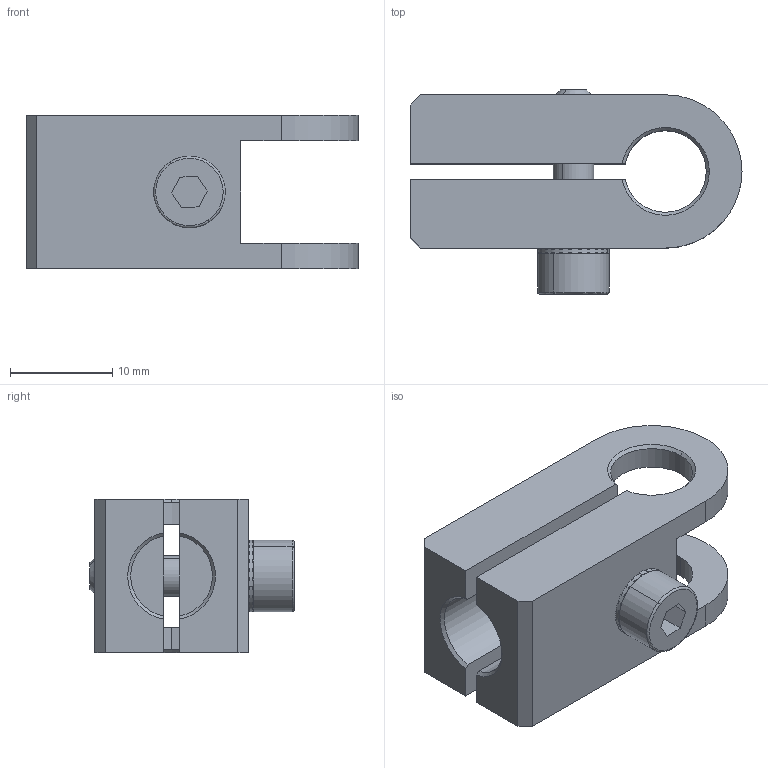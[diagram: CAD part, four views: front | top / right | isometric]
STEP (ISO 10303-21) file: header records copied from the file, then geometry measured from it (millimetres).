
FILE_DESCRIPTION (( 'STEP AP214' ), '1' );
FILE_NAME ('SMBR7-0808.STEP', '2019-11-07T02:25:21', ( '微软用户' ), ( '微软中国' ), 'SwSTEP 2.0', 'SolidWorks 2016', '' );
FILE_SCHEMA (( 'AUTOMOTIVE_DESIGN' ));
Length unit declared in the file: millimetre
Products named in the file (1): SMBR7-0808
Bounding box: 32.5 x 20 x 15 mm (x, y, z)
Volume: 4439.8 mm3; surface area: 3459 mm2
Topology: 3 solids, 3 shells, 246 faces, 714 edges, 472 vertices
Faces by surface type: plane 218, cylinder 19, cone 7, bspline 2
Entity records: 11039 total; most frequent: CARTESIAN_POINT 1581, ORIENTED_EDGE 1428, DIRECTION 1422, EDGE_CURVE 714, AXIS2_PLACEMENT_3D 475, VECTOR 472, LINE 472, VERTEX_POINT 472
